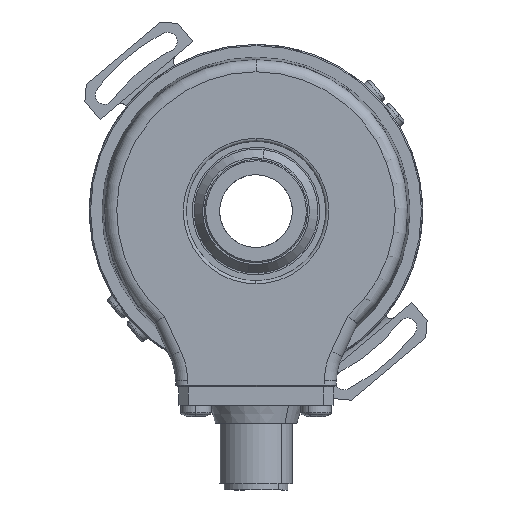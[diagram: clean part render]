
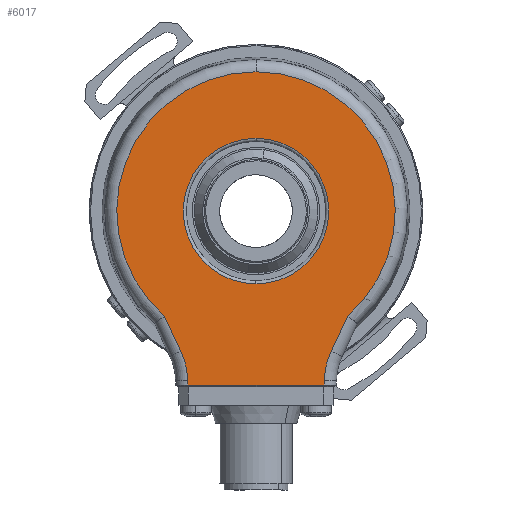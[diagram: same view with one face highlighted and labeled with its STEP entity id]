
A CAD part, left-side view. The second image highlights one B-rep face of the part: STEP entity #6017.
In plain terms, the highlighted planar face has unit normal (-1, 0, 0).
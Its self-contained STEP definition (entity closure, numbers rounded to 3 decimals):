
#4126 = EDGE_CURVE ( 'NONE', #4129, #4196, #10480, .T. ) ;
#4129 = VERTEX_POINT ( 'NONE', #10530 ) ;
#4171 = VERTEX_POINT ( 'NONE', #10672 ) ;
#4173 = EDGE_CURVE ( 'NONE', #4238, #4171, #10670, .T. ) ;
#4183 = EDGE_CURVE ( 'NONE', #4184, #4185, #10731, .T. ) ;
#4184 = VERTEX_POINT ( 'NONE', #10722 ) ;
#4185 = VERTEX_POINT ( 'NONE', #10720 ) ;
#4196 = VERTEX_POINT ( 'NONE', #10800 ) ;
#4238 = VERTEX_POINT ( 'NONE', #10924 ) ;
#5719 = VERTEX_POINT ( 'NONE', #16390 ) ;
#5759 = EDGE_CURVE ( 'NONE', #5719, #4184, #16575, .T. ) ;
#5760 = EDGE_CURVE ( 'NONE', #4171, #5719, #16565, .T. ) ;
#5822 = VERTEX_POINT ( 'NONE', #16755 ) ;
#5827 = EDGE_CURVE ( 'NONE', #4185, #5822, #16796, .T. ) ;
#5830 = VERTEX_POINT ( 'NONE', #16792 ) ;
#5848 = EDGE_CURVE ( 'NONE', #5822, #5830, #16880, .T. ) ;
#5902 = VERTEX_POINT ( 'NONE', #16980 ) ;
#5938 = VERTEX_POINT ( 'NONE', #17078 ) ;
#5947 = EDGE_CURVE ( 'NONE', #5902, #5938, #17107, .T. ) ;
#6005 = ORIENTED_EDGE ( 'NONE', *, *, #5827, .T. ) ;
#6006 = EDGE_LOOP ( 'NONE', ( #6063, #6068, #6069, #6071, #6053, #6023, #6024, #6005, #6007 ) ) ;
#6007 = ORIENTED_EDGE ( 'NONE', *, *, #5848, .T. ) ;
#6009 = ORIENTED_EDGE ( 'NONE', *, *, #4126, .T. ) ;
#6010 = EDGE_CURVE ( 'NONE', #4196, #4129, #17380, .T. ) ;
#6017 = ADVANCED_FACE ( 'NONE', ( #17420, #17418 ), #17463, .F. ) ;
#6023 = ORIENTED_EDGE ( 'NONE', *, *, #5759, .T. ) ;
#6024 = ORIENTED_EDGE ( 'NONE', *, *, #4183, .T. ) ;
#6025 = ORIENTED_EDGE ( 'NONE', *, *, #6010, .T. ) ;
#6029 = EDGE_CURVE ( 'NONE', #5830, #5902, #17448, .T. ) ;
#6053 = ORIENTED_EDGE ( 'NONE', *, *, #5760, .T. ) ;
#6057 = EDGE_LOOP ( 'NONE', ( #6009, #6025 ) ) ;
#6063 = ORIENTED_EDGE ( 'NONE', *, *, #6029, .T. ) ;
#6068 = ORIENTED_EDGE ( 'NONE', *, *, #5947, .T. ) ;
#6069 = ORIENTED_EDGE ( 'NONE', *, *, #6070, .T. ) ;
#6070 = EDGE_CURVE ( 'NONE', #5938, #4238, #17631, .T. ) ;
#6071 = ORIENTED_EDGE ( 'NONE', *, *, #4173, .T. ) ;
#10476 = DIRECTION ( 'NONE',  ( 0., 0., 1. ) ) ;
#10477 = DIRECTION ( 'NONE',  ( 1., 0., 0. ) ) ;
#10478 = CARTESIAN_POINT ( 'NONE',  ( -21., 0., 0. ) ) ;
#10479 = AXIS2_PLACEMENT_3D ( 'NONE', #10478, #10477, #10476 ) ;
#10480 = CIRCLE ( 'NONE', #10479, 12. ) ;
#10530 = CARTESIAN_POINT ( 'NONE',  ( -21., 0., 12. ) ) ;
#10666 = DIRECTION ( 'NONE',  ( 0., 0., 1. ) ) ;
#10667 = DIRECTION ( 'NONE',  ( 1., 0., 0. ) ) ;
#10668 = CARTESIAN_POINT ( 'NONE',  ( -21., -23.266, -28.183 ) ) ;
#10669 = AXIS2_PLACEMENT_3D ( 'NONE', #10668, #10667, #10666 ) ;
#10670 = CIRCLE ( 'NONE', #10669, 12. ) ;
#10672 = CARTESIAN_POINT ( 'NONE',  ( -21., -12.39, -23.112 ) ) ;
#10720 = CARTESIAN_POINT ( 'NONE',  ( -21., 15.091, -17.32 ) ) ;
#10722 = CARTESIAN_POINT ( 'NONE',  ( -21., 0., 22.972 ) ) ;
#10723 = DIRECTION ( 'NONE',  ( 0., 0., 1. ) ) ;
#10724 = DIRECTION ( 'NONE',  ( -1., 0., 0. ) ) ;
#10725 = CARTESIAN_POINT ( 'NONE',  ( -21., 0., 0. ) ) ;
#10726 = AXIS2_PLACEMENT_3D ( 'NONE', #10725, #10724, #10723 ) ;
#10731 = CIRCLE ( 'NONE', #10726, 22.972 ) ;
#10800 = CARTESIAN_POINT ( 'NONE',  ( -21., 0., -12. ) ) ;
#10924 = CARTESIAN_POINT ( 'NONE',  ( -21., -11.268, -27.974 ) ) ;
#16390 = CARTESIAN_POINT ( 'NONE',  ( -21., -15.091, -17.32 ) ) ;
#16562 = DIRECTION ( 'NONE',  ( 0., -0.423, 0.906 ) ) ;
#16563 = VECTOR ( 'NONE', #16562, 1000. ) ;
#16564 = CARTESIAN_POINT ( 'NONE',  ( -21., -14.953, -17.615 ) ) ;
#16565 = LINE ( 'NONE', #16564, #16563 ) ;
#16567 = DIRECTION ( 'NONE',  ( 0., 0., 1. ) ) ;
#16568 = DIRECTION ( 'NONE',  ( -1., 0., 0. ) ) ;
#16569 = CARTESIAN_POINT ( 'NONE',  ( -21., 0., 0. ) ) ;
#16570 = AXIS2_PLACEMENT_3D ( 'NONE', #16569, #16568, #16567 ) ;
#16575 = CIRCLE ( 'NONE', #16570, 22.972 ) ;
#16755 = CARTESIAN_POINT ( 'NONE',  ( -21., 12.39, -23.112 ) ) ;
#16792 = CARTESIAN_POINT ( 'NONE',  ( -21., 11.268, -27.974 ) ) ;
#16793 = DIRECTION ( 'NONE',  ( 0., -0.423, -0.906 ) ) ;
#16794 = VECTOR ( 'NONE', #16793, 1000. ) ;
#16795 = CARTESIAN_POINT ( 'NONE',  ( -21., 12.39, -23.112 ) ) ;
#16796 = LINE ( 'NONE', #16795, #16794 ) ;
#16876 = DIRECTION ( 'NONE',  ( 0., 0., 1. ) ) ;
#16877 = DIRECTION ( 'NONE',  ( 1., 0., 0. ) ) ;
#16878 = CARTESIAN_POINT ( 'NONE',  ( -21., 23.266, -28.183 ) ) ;
#16879 = AXIS2_PLACEMENT_3D ( 'NONE', #16878, #16877, #16876 ) ;
#16880 = CIRCLE ( 'NONE', #16879, 12. ) ;
#16980 = CARTESIAN_POINT ( 'NONE',  ( -21., 11.255, -28.695 ) ) ;
#17078 = CARTESIAN_POINT ( 'NONE',  ( -21., -11.255, -28.695 ) ) ;
#17104 = DIRECTION ( 'NONE',  ( 0., -1., 0. ) ) ;
#17105 = VECTOR ( 'NONE', #17104, 1000. ) ;
#17106 = CARTESIAN_POINT ( 'NONE',  ( -21., -11.25, -28.695 ) ) ;
#17107 = LINE ( 'NONE', #17106, #17105 ) ;
#17380 = CIRCLE ( 'NONE', #17435, 12. ) ;
#17418 = FACE_OUTER_BOUND ( 'NONE', #6006, .T. ) ;
#17420 = FACE_BOUND ( 'NONE', #6057, .T. ) ;
#17432 = DIRECTION ( 'NONE',  ( 0., 0., 1. ) ) ;
#17433 = DIRECTION ( 'NONE',  ( 1., 0., 0. ) ) ;
#17434 = CARTESIAN_POINT ( 'NONE',  ( -21., 0., 0. ) ) ;
#17435 = AXIS2_PLACEMENT_3D ( 'NONE', #17434, #17433, #17432 ) ;
#17445 = DIRECTION ( 'NONE',  ( 0., -0.017, -1. ) ) ;
#17446 = VECTOR ( 'NONE', #17445, 1000. ) ;
#17447 = CARTESIAN_POINT ( 'NONE',  ( -21., 11.752, -0.205 ) ) ;
#17448 = LINE ( 'NONE', #17447, #17446 ) ;
#17458 = DIRECTION ( 'NONE',  ( 0., 0., 1. ) ) ;
#17459 = DIRECTION ( 'NONE',  ( 1., 0., 0. ) ) ;
#17460 = CARTESIAN_POINT ( 'NONE',  ( -21., 0., 0. ) ) ;
#17461 = AXIS2_PLACEMENT_3D ( 'NONE', #17460, #17459, #17458 ) ;
#17463 = PLANE ( 'NONE',  #17461 ) ;
#17628 = DIRECTION ( 'NONE',  ( 0., -0.017, 1. ) ) ;
#17629 = VECTOR ( 'NONE', #17628, 1000. ) ;
#17630 = CARTESIAN_POINT ( 'NONE',  ( -21., -11.752, -0.205 ) ) ;
#17631 = LINE ( 'NONE', #17630, #17629 ) ;
